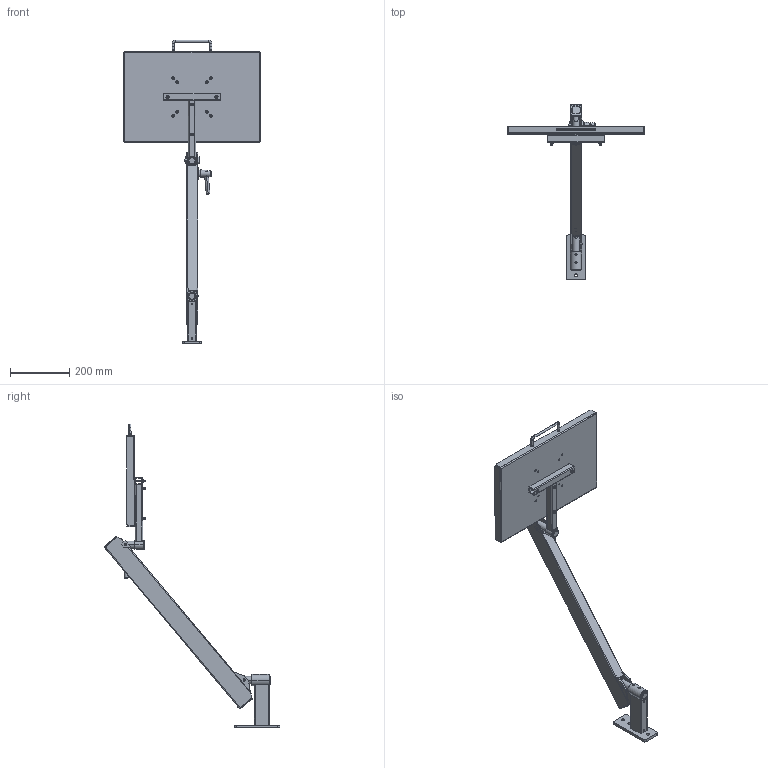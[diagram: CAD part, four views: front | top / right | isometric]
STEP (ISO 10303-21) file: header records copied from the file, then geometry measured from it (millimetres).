
FILE_DESCRIPTION (( 'STEP AP203' ), '1' );
FILE_NAME ('70-0724-00 REV AA, 24in FLEX SYSTEM, TOOL TRAY, WALL MOUNT W EXT - ANGLE UP.STEP', '2025-09-15T22:48:19', ( '' ), ( '' ), 'SwSTEP 2.0', 'SolidWorks 2025', '' );
FILE_SCHEMA (( 'CONFIG_CONTROL_DESIGN' ));
Length unit declared in the file: inch
Products named in the file (52): 11-0601-99 REV AA, CONICAL KNOB, BRAKE ASSEMBLY; 71-2400-RX REV AA, HOUSING, 24in FLEX; 71-0091-RX REV AA, HOUSING, WALL MOUNT, 6in EXTENSION; 71-0217-RX REV AA, PLATE, NARROW WALL MOUNT_Laser; 71-0070-RX REV AA, AXLE PIN, SHORT; 004-050-00, WASHER, FIBER, .032 THK, .265ID; 71-0031-RX REV AA, KNUCKLE, MOUNT_MACHINE; 002-100-00, BHSCS, 8-32x.375_002-100-00; 013-037-00, SPRING, GREEN, 1x12; 002-041-00_002-041-00; 016-008-00, OILITE PLUS BEARING, 0.876 id x 1.002 od x 1.25 lg; 71-0039-RX REV AA, BRAKE BLOCK_MACHINE; 71-1051-RX REV AA, SPRING BLOCK; 002-091-00, FHSCS, 10-32x1.5, BO_002-091-00; 016-070-00, BEARING, PLASTIC, .5ID x .625 OD x .75; 71-0052-RX REV AA, HOUSING, T AND STRAIGHT BAR CROSS SECTION_MACHINE; 006-004-00_006-004-00; 005-084-00, BOLT, 1''4-20x2.75; 70-2424-00 REV AA,  FLEX SECTION, 24in, 3-24 LB; 71-0071-RX REV AA, AXLE PIN, LONG; 71-0972-99 REV AA, END CAP, FLEX; 007-031-00_007-031-00; 71-3033-99 REV AA, BOLT, ADJUSTING, 15.250; 71-0030-RX REV AA, KNUCKLE, LOAD_MACHINE; 70-0724-00 REV AA, 24in FLEX SYSTEM, TOOL TRAY, WALL MOUNT W EXT - ANGLE UP; 70-0095-00 REV AA, STUD MOUNT, 6in EXT; 010-012-00, RETAINING RING, EXTERNAL, .875in SHAFT; 025-067-00, HANDLE, U SHAPED, 8-32; 70-0050-00 REV AA, T BAR; 016-007-00, OILITE PLUS BEARING, 0.876 id x 1.002 od x 0.75 lg; 71-2401-BLKX REV AA, FLEX HOUSING, 24in, BLACK; 11-0602-RX REV AA, HANDLE, BRAKE ASSEMBLY; 71-0037-RX REV AA, PIVOT, THREADED; 71-0047-RX REV AA, HOUSING, T AND STRAIGHT BAR_MACHINE; 71-0029-RX REV AA, TAB, LOAD; 11-0401-00 REV AA, 18x12 TOOL TRAY, BLACK; 11-0650-00 REV AA, BRAKE HANDLE ASSEMBLY; 71-3032-RX REV AA, SPRING ROD, 24in FLEX; 011-020-00 REV AA, PIN, KNURLED, 1.0LG x .25OD; 71-0013-RX REV AA, HOUSING, BEARING, SHORT_MACHINE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
Assembly tree (80 placements, depth 4):
  70-0724-00 REV AA, 24in FLEX SYSTEM, TOOL TRAY, WALL MOUNT W EXT - ANGLE UP
    70-0095-00 REV AA, STUD MOUNT, 6in EXT
      71-0217-RX REV AA, PLATE, NARROW WALL MOUNT_Laser
      71-0091-RX REV AA, HOUSING, WALL MOUNT, 6in EXTENSION
      71-2113-RX REV AA, HOUSING, BEARING, TALL, 1.5OD_MACHINE
      016-007-00, OILITE PLUS BEARING, 0.876 id x 1.002 od x 0.75 lg
      016-008-00, OILITE PLUS BEARING, 0.876 id x 1.002 od x 1.25 lg
      007-036-00, SHSS, 1''4-28, .25L_007-036-00
    70-2424-00 REV AA,  FLEX SECTION, 24in, 3-24 LB
      71-0031-RX REV AA, KNUCKLE, MOUNT_MACHINE
      71-1051-RX REV AA, SPRING BLOCK
      71-3032-RX REV AA, SPRING ROD, 24in FLEX
      71-0030-RX REV AA, KNUCKLE, LOAD_MACHINE
      71-0038-RX REV AA, PIVOT, KNUCKLE, ELECTROLESS NICKEL
      71-0037-RX REV AA, PIVOT, THREADED
      71-0039-RX REV AA, BRAKE BLOCK_MACHINE
      71-3033-99 REV AA, BOLT, ADJUSTING, 15.250
      71-2401-BLKX REV AA, FLEX HOUSING, 24in, BLACK
        71-2400-RX REV AA, HOUSING, 24in FLEX
        71-0029-RX REV AA, TAB, LOAD  x2
        71-0028-RX REV AA, TAB, MOUNT_MACHINE  x2
      71-0070-RX REV AA, AXLE PIN, SHORT
      71-0071-RX REV AA, AXLE PIN, LONG
      010-012-00, RETAINING RING, EXTERNAL, .875in SHAFT  x2
      71-0972-99 REV AA, END CAP, FLEX  x2
      11-0027-RX REV AA, PLASTIC DISC, BRAKE ASSEMBLY_MACHINE
      11-0650-00 REV AA, BRAKE HANDLE ASSEMBLY
        11-0601-99 REV AA, CONICAL KNOB, BRAKE ASSEMBLY
        11-0602-RX REV AA, HANDLE, BRAKE ASSEMBLY
        11-0027-RX REV AA, PLASTIC DISC, BRAKE ASSEMBLY_MACHINE
        005-084-00, BOLT, 1''4-20x2.75
      010-011-00, RETAINING RING, EXT, .250 SHAFT_010-011-00  x4
      016-070-00, BEARING, PLASTIC, .5ID x .625 OD x .75  x2
      004-050-00, WASHER, FIBER, .032 THK, .265ID  x8
      011-033-00
      011-020-00 REV AA, PIN, KNURLED, 1.0LG x .25OD  x2
      004-144-00  x3
      006-059-00
      013-037-00, SPRING, GREEN, 1x12
      006-004-00_006-004-00  x2
      002-041-00_002-041-00  x2
    70-0401-00 REV AA, 18x12 SUPPORT TRAY ASSEMBLY
      11-0401-00 REV AA, 18x12 TOOL TRAY, BLACK
      70-0050-00 REV AA, T BAR
        71-0047-RX REV AA, HOUSING, T AND STRAIGHT BAR_MACHINE
        71-0013-RX REV AA, HOUSING, BEARING, SHORT_MACHINE
        71-0052-RX REV AA, HOUSING, T AND STRAIGHT BAR CROSS SECTION_MACHINE
        016-008-00, OILITE PLUS BEARING, 0.876 id x 1.002 od x 1.25 lg
        007-031-00_007-031-00
      002-091-00, FHSCS, 10-32x1.5, BO_002-091-00  x4
      006-008-00, NUT, HEX, 10-32 x .125_006-008-00  x4
      025-067-00, HANDLE, U SHAPED, 8-32
      002-100-00, BHSCS, 8-32x.375_002-100-00  x2
      11-0450-00 REV AA, FOAM, YELLOW, 18x12
Bounding box: 461.77 x 594.47 x 1028.81 mm (x, y, z)
Volume: 1826025.9 mm3; surface area: 1278283.6 mm2
Topology: 76 solids, 76 shells, 2042 faces, 4954 edges, 3063 vertices
Faces by surface type: cylinder 907, plane 561, cone 423, torus 89, bspline 52, sphere 10
Entity records: 82292 total; most frequent: CARTESIAN_POINT 46741, ORIENTED_EDGE 6134, DIRECTION 6077, EDGE_CURVE 3067, AXIS2_PLACEMENT_3D 2354, VERTEX_POINT 1907, EDGE_LOOP 1422, VECTOR 1369
